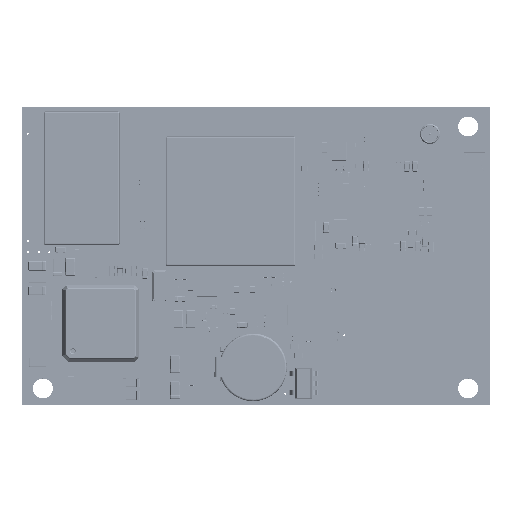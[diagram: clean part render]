
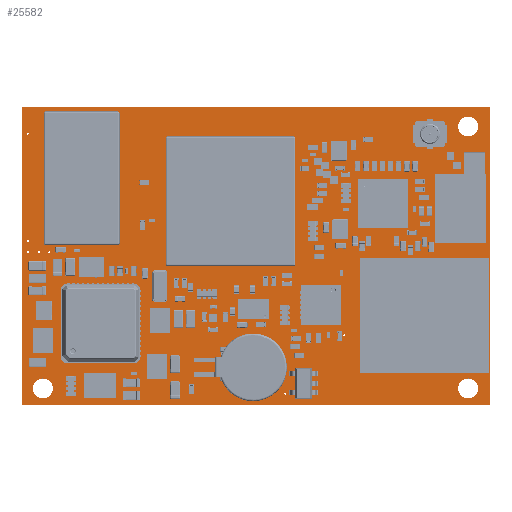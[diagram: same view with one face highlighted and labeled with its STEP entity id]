
A CAD part, top view. The second image highlights one B-rep face of the part: STEP entity #25582.
In plain terms, the highlighted planar face has unit normal (0, 0, 1).
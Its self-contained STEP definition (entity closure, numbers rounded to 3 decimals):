
#25582=ADVANCED_FACE('',(#50014,#50015,#50016,#50017,#50018,#50019,#50020,#50021,#50022,#50023,#50024,#50025,#50026,#50027,#50028,#50029,#50030,#50031),#50032,.T.);
#50014=FACE_OUTER_BOUND('',#84575,.T.);
#50015=FACE_BOUND('',#84576,.T.);
#50016=FACE_BOUND('',#84577,.T.);
#50017=FACE_BOUND('',#84578,.T.);
#50018=FACE_BOUND('',#84579,.T.);
#50019=FACE_BOUND('',#84580,.T.);
#50020=FACE_BOUND('',#84581,.T.);
#50021=FACE_BOUND('',#84582,.T.);
#50022=FACE_BOUND('',#84583,.T.);
#50023=FACE_BOUND('',#84584,.T.);
#50024=FACE_BOUND('',#84585,.T.);
#50025=FACE_BOUND('',#84586,.T.);
#50026=FACE_BOUND('',#84587,.T.);
#50027=FACE_BOUND('',#84588,.T.);
#50028=FACE_BOUND('',#84589,.T.);
#50029=FACE_BOUND('',#84590,.T.);
#50030=FACE_BOUND('',#84591,.T.);
#50031=FACE_BOUND('',#84592,.T.);
#50032=PLANE('',#84593);
#84575=EDGE_LOOP('',(#140218,#140219,#140220,#140221));
#84576=EDGE_LOOP('',(#140222));
#84577=EDGE_LOOP('',(#140223));
#84578=EDGE_LOOP('',(#140224));
#84579=EDGE_LOOP('',(#140225));
#84580=EDGE_LOOP('',(#140226));
#84581=EDGE_LOOP('',(#140227));
#84582=EDGE_LOOP('',(#140228));
#84583=EDGE_LOOP('',(#140229));
#84584=EDGE_LOOP('',(#140230));
#84585=EDGE_LOOP('',(#140231));
#84586=EDGE_LOOP('',(#140232));
#84587=EDGE_LOOP('',(#140233));
#84588=EDGE_LOOP('',(#140234));
#84589=EDGE_LOOP('',(#140235));
#84590=EDGE_LOOP('',(#140236));
#84591=EDGE_LOOP('',(#140237));
#84592=EDGE_LOOP('',(#140238));
#84593=AXIS2_PLACEMENT_3D('',#140239,#140240,#140241);
#140218=ORIENTED_EDGE('',*,*,#175243,.T.);
#140219=ORIENTED_EDGE('',*,*,#175244,.T.);
#140220=ORIENTED_EDGE('',*,*,#175245,.T.);
#140221=ORIENTED_EDGE('',*,*,#175246,.T.);
#140222=ORIENTED_EDGE('',*,*,#175247,.T.);
#140223=ORIENTED_EDGE('',*,*,#175248,.T.);
#140224=ORIENTED_EDGE('',*,*,#175249,.T.);
#140225=ORIENTED_EDGE('',*,*,#175241,.T.);
#140226=ORIENTED_EDGE('',*,*,#175238,.T.);
#140227=ORIENTED_EDGE('',*,*,#175235,.T.);
#140228=ORIENTED_EDGE('',*,*,#175232,.T.);
#140229=ORIENTED_EDGE('',*,*,#175229,.T.);
#140230=ORIENTED_EDGE('',*,*,#175226,.T.);
#140231=ORIENTED_EDGE('',*,*,#175223,.T.);
#140232=ORIENTED_EDGE('',*,*,#175220,.T.);
#140233=ORIENTED_EDGE('',*,*,#175217,.T.);
#140234=ORIENTED_EDGE('',*,*,#175214,.T.);
#140235=ORIENTED_EDGE('',*,*,#175211,.T.);
#140236=ORIENTED_EDGE('',*,*,#175208,.T.);
#140237=ORIENTED_EDGE('',*,*,#175205,.T.);
#140238=ORIENTED_EDGE('',*,*,#175202,.T.);
#140239=CARTESIAN_POINT('',(23.5,15.0,1.534));
#140240=DIRECTION('',(0.0,0.0,1.0));
#140241=DIRECTION('',(1.0,0.0,0.0));
#175202=EDGE_CURVE('',#209850,#209850,#209851,.T.);
#175205=EDGE_CURVE('',#209855,#209855,#209856,.T.);
#175208=EDGE_CURVE('',#209860,#209860,#209861,.T.);
#175211=EDGE_CURVE('',#209865,#209865,#209866,.T.);
#175214=EDGE_CURVE('',#209870,#209870,#209871,.T.);
#175217=EDGE_CURVE('',#209875,#209875,#209876,.T.);
#175220=EDGE_CURVE('',#209880,#209880,#209881,.T.);
#175223=EDGE_CURVE('',#209885,#209885,#209886,.T.);
#175226=EDGE_CURVE('',#209890,#209890,#209891,.T.);
#175229=EDGE_CURVE('',#209895,#209895,#209896,.T.);
#175232=EDGE_CURVE('',#209900,#209900,#209901,.T.);
#175235=EDGE_CURVE('',#209905,#209905,#209906,.T.);
#175238=EDGE_CURVE('',#209910,#209910,#209911,.T.);
#175241=EDGE_CURVE('',#209915,#209915,#209916,.T.);
#175243=EDGE_CURVE('',#209918,#209919,#209920,.T.);
#175244=EDGE_CURVE('',#209919,#209921,#209922,.T.);
#175245=EDGE_CURVE('',#209921,#209923,#209924,.T.);
#175246=EDGE_CURVE('',#209923,#209918,#209925,.T.);
#175247=EDGE_CURVE('',#209926,#209926,#209927,.T.);
#175248=EDGE_CURVE('',#209928,#209928,#209929,.T.);
#175249=EDGE_CURVE('',#209930,#209930,#209931,.T.);
#209850=VERTEX_POINT('',#266293);
#209851=CIRCLE('',#266294,0.102);
#209855=VERTEX_POINT('',#266298);
#209856=CIRCLE('',#266299,0.102);
#209860=VERTEX_POINT('',#266303);
#209861=CIRCLE('',#266304,0.102);
#209865=VERTEX_POINT('',#266308);
#209866=CIRCLE('',#266309,0.102);
#209870=VERTEX_POINT('',#266313);
#209871=CIRCLE('',#266314,0.102);
#209875=VERTEX_POINT('',#266318);
#209876=CIRCLE('',#266319,0.102);
#209880=VERTEX_POINT('',#266323);
#209881=CIRCLE('',#266324,0.102);
#209885=VERTEX_POINT('',#266328);
#209886=CIRCLE('',#266329,0.102);
#209890=VERTEX_POINT('',#266333);
#209891=CIRCLE('',#266334,0.102);
#209895=VERTEX_POINT('',#266338);
#209896=CIRCLE('',#266339,0.102);
#209900=VERTEX_POINT('',#266343);
#209901=CIRCLE('',#266344,0.102);
#209905=VERTEX_POINT('',#266348);
#209906=CIRCLE('',#266349,0.102);
#209910=VERTEX_POINT('',#266353);
#209911=CIRCLE('',#266354,0.102);
#209915=VERTEX_POINT('',#266358);
#209916=CIRCLE('',#266359,0.102);
#209918=VERTEX_POINT('',#266361);
#209919=VERTEX_POINT('',#266362);
#209920=LINE('',#266363,#266364);
#209921=VERTEX_POINT('',#266365);
#209922=LINE('',#266366,#266367);
#209923=VERTEX_POINT('',#266368);
#209924=LINE('',#266369,#266370);
#209925=LINE('',#266371,#266372);
#209926=VERTEX_POINT('',#266373);
#209927=CIRCLE('',#266374,1.0);
#209928=VERTEX_POINT('',#266375);
#209929=CIRCLE('',#266376,1.0);
#209930=VERTEX_POINT('',#266377);
#209931=CIRCLE('',#266378,1.0);
#266293=CARTESIAN_POINT('',(0.497,16.527,1.534));
#266294=AXIS2_PLACEMENT_3D('',#299742,#299743,#299744);
#266298=CARTESIAN_POINT('',(0.478,15.405,1.534));
#266299=AXIS2_PLACEMENT_3D('',#299748,#299749,#299750);
#266303=CARTESIAN_POINT('',(1.571,15.405,1.534));
#266304=AXIS2_PLACEMENT_3D('',#299754,#299755,#299756);
#266308=CARTESIAN_POINT('',(2.645,15.395,1.534));
#266309=AXIS2_PLACEMENT_3D('',#299760,#299761,#299762);
#266313=CARTESIAN_POINT('',(0.477,27.276,1.534));
#266314=AXIS2_PLACEMENT_3D('',#299766,#299767,#299768);
#266318=CARTESIAN_POINT('',(32.262,7.041,1.534));
#266319=AXIS2_PLACEMENT_3D('',#299772,#299773,#299774);
#266323=CARTESIAN_POINT('',(20.651,23.526,1.534));
#266324=AXIS2_PLACEMENT_3D('',#299778,#299779,#299780);
#266328=CARTESIAN_POINT('',(44.027,13.615,1.534));
#266329=AXIS2_PLACEMENT_3D('',#299784,#299785,#299786);
#266333=CARTESIAN_POINT('',(26.35,1.153,1.534));
#266334=AXIS2_PLACEMENT_3D('',#299790,#299791,#299792);
#266338=CARTESIAN_POINT('',(30.869,10.084,1.534));
#266339=AXIS2_PLACEMENT_3D('',#299796,#299797,#299798);
#266343=CARTESIAN_POINT('',(29.899,11.054,1.534));
#266344=AXIS2_PLACEMENT_3D('',#299802,#299803,#299804);
#266348=CARTESIAN_POINT('',(29.899,9.114,1.534));
#266349=AXIS2_PLACEMENT_3D('',#299808,#299809,#299810);
#266353=CARTESIAN_POINT('',(28.929,10.084,1.534));
#266354=AXIS2_PLACEMENT_3D('',#299814,#299815,#299816);
#266358=CARTESIAN_POINT('',(29.899,10.084,1.534));
#266359=AXIS2_PLACEMENT_3D('',#299820,#299821,#299822);
#266361=CARTESIAN_POINT('',(0.0,0.0,1.534));
#266362=CARTESIAN_POINT('',(47.0,0.0,1.534));
#266363=CARTESIAN_POINT('',(23.5,0.0,1.534));
#266364=VECTOR('',#299823,1.0);
#266365=CARTESIAN_POINT('',(47.0,30.0,1.534));
#266366=CARTESIAN_POINT('',(47.0,15.0,1.534));
#266367=VECTOR('',#299824,1.0);
#266368=CARTESIAN_POINT('',(0.0,30.0,1.534));
#266369=CARTESIAN_POINT('',(23.5,30.0,1.534));
#266370=VECTOR('',#299825,1.0);
#266371=CARTESIAN_POINT('',(0.0,15.0,1.534));
#266372=VECTOR('',#299826,1.0);
#266373=CARTESIAN_POINT('',(44.8,2.7,1.534));
#266374=AXIS2_PLACEMENT_3D('',#299827,#299828,#299829);
#266375=CARTESIAN_POINT('',(2.1,2.7,1.534));
#266376=AXIS2_PLACEMENT_3D('',#299830,#299831,#299832);
#266377=CARTESIAN_POINT('',(44.8,29.0,1.534));
#266378=AXIS2_PLACEMENT_3D('',#299833,#299834,#299835);
#299742=CARTESIAN_POINT('',(0.599,16.527,1.534));
#299743=DIRECTION('',(0.0,0.0,-1.0));
#299744=DIRECTION('',(1.0,0.0,0.0));
#299748=CARTESIAN_POINT('',(0.58,15.405,1.534));
#299749=DIRECTION('',(0.0,0.0,-1.0));
#299750=DIRECTION('',(1.0,0.0,0.0));
#299754=CARTESIAN_POINT('',(1.673,15.405,1.534));
#299755=DIRECTION('',(0.0,0.0,-1.0));
#299756=DIRECTION('',(1.0,0.0,0.0));
#299760=CARTESIAN_POINT('',(2.747,15.395,1.534));
#299761=DIRECTION('',(0.0,0.0,-1.0));
#299762=DIRECTION('',(1.0,0.0,0.0));
#299766=CARTESIAN_POINT('',(0.578,27.276,1.534));
#299767=DIRECTION('',(0.0,0.0,-1.0));
#299768=DIRECTION('',(1.0,0.0,0.0));
#299772=CARTESIAN_POINT('',(32.364,7.041,1.534));
#299773=DIRECTION('',(0.0,0.0,-1.0));
#299774=DIRECTION('',(1.0,0.0,0.0));
#299778=CARTESIAN_POINT('',(20.753,23.526,1.534));
#299779=DIRECTION('',(0.0,0.0,-1.0));
#299780=DIRECTION('',(1.0,0.0,0.0));
#299784=CARTESIAN_POINT('',(44.128,13.615,1.534));
#299785=DIRECTION('',(0.0,0.0,-1.0));
#299786=DIRECTION('',(1.0,0.0,0.0));
#299790=CARTESIAN_POINT('',(26.451,1.153,1.534));
#299791=DIRECTION('',(0.0,0.0,-1.0));
#299792=DIRECTION('',(1.0,0.0,0.0));
#299796=CARTESIAN_POINT('',(30.971,10.084,1.534));
#299797=DIRECTION('',(0.0,0.0,-1.0));
#299798=DIRECTION('',(1.0,0.0,0.0));
#299802=CARTESIAN_POINT('',(30.001,11.054,1.534));
#299803=DIRECTION('',(0.0,0.0,-1.0));
#299804=DIRECTION('',(1.0,0.0,0.0));
#299808=CARTESIAN_POINT('',(30.001,9.114,1.534));
#299809=DIRECTION('',(0.0,0.0,-1.0));
#299810=DIRECTION('',(1.0,0.0,0.0));
#299814=CARTESIAN_POINT('',(29.031,10.084,1.534));
#299815=DIRECTION('',(0.0,0.0,-1.0));
#299816=DIRECTION('',(1.0,0.0,0.0));
#299820=CARTESIAN_POINT('',(30.001,10.084,1.534));
#299821=DIRECTION('',(0.0,0.0,-1.0));
#299822=DIRECTION('',(1.0,0.0,0.0));
#299823=DIRECTION('',(1.0,0.0,0.0));
#299824=DIRECTION('',(0.0,1.0,0.0));
#299825=DIRECTION('',(-1.0,0.0,0.0));
#299826=DIRECTION('',(0.0,-1.0,0.0));
#299827=CARTESIAN_POINT('',(44.8,1.7,1.534));
#299828=DIRECTION('',(0.0,0.0,-1.0));
#299829=DIRECTION('',(0.0,1.0,0.0));
#299830=CARTESIAN_POINT('',(2.1,1.7,1.534));
#299831=DIRECTION('',(0.0,0.0,-1.0));
#299832=DIRECTION('',(0.0,1.0,0.0));
#299833=CARTESIAN_POINT('',(44.8,28.0,1.534));
#299834=DIRECTION('',(0.0,0.0,-1.0));
#299835=DIRECTION('',(0.0,1.0,0.0));
